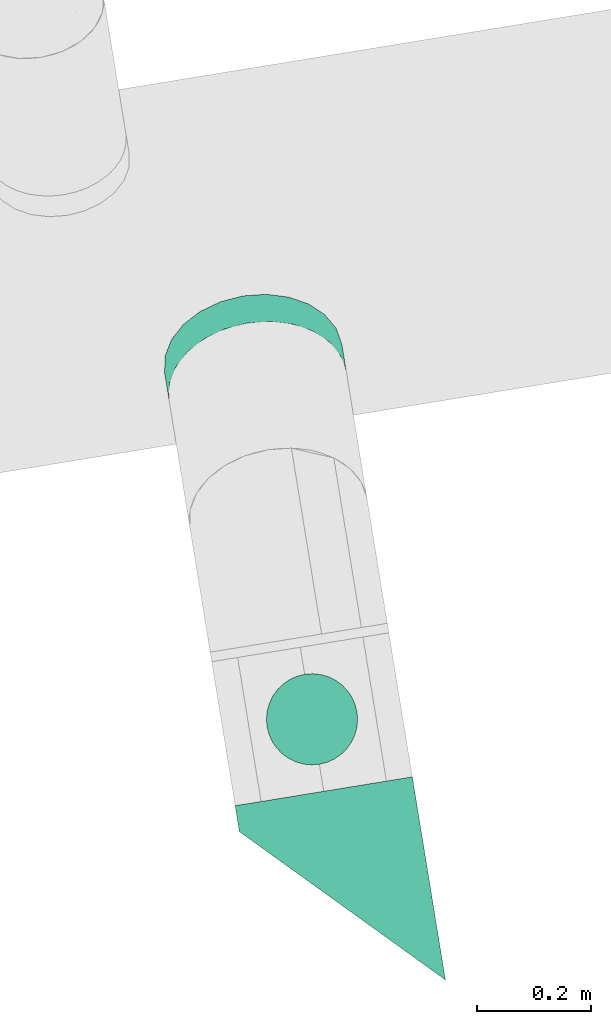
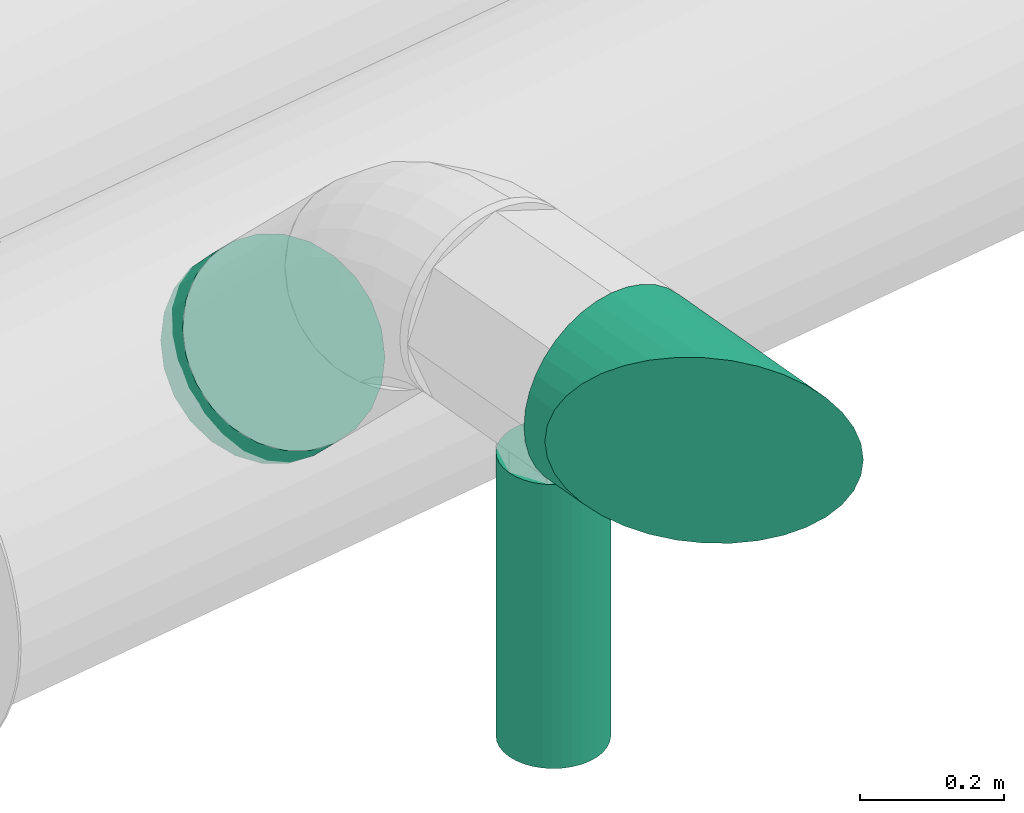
# One storey, part 9 of 15: 2 flow segments, 1 flow fitting.
"""IFC2X3 building model written with IfcOpenShell, lengths in millimetres."""

from ifc_helpers import new_model, entity, si_unit, converted_unit, derived_unit, direction, frame, origin, origin_with_axes, place, context, subcontext, project, spatial, faceted_brep, source, transform, mapped, material, type_object, element, save


model = new_model("IFC2X3")

# Units and contexts
model_context = context("Model", 3, precision=0.01, world=origin(), true_north=direction((6.12323399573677e-17, 1.0)))
plan_context = context("Plan", 3, precision=1e-05, world=origin_with_axes())
body_context = subcontext(model_context, "Body", "Model", "MODEL_VIEW")
ifc_project = project(units=[converted_unit("PLANEANGLEUNIT", "DEGREE", entity("IfcPositiveLengthMeasure", 0.0174532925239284), si_unit("PLANEANGLEUNIT", "RADIAN"), dimensions=[0, 0, 0, 0, 0, 0, 0]), si_unit("AREAUNIT", "SQUARE_METRE"), si_unit("LENGTHUNIT", "METRE", prefix="MILLI"), si_unit("MASSUNIT", "GRAM", prefix="KILO"), si_unit("POWERUNIT", "WATT"), si_unit("PRESSUREUNIT", "PASCAL", prefix="KILO"), si_unit("FORCEUNIT", "NEWTON", prefix="KILO"), si_unit("ELECTRICVOLTAGEUNIT", "VOLT"), si_unit("ELECTRICCURRENTUNIT", "AMPERE"), si_unit("THERMODYNAMICTEMPERATUREUNIT", "DEGREE_CELSIUS"), si_unit("TIMEUNIT", "SECOND"), si_unit("VOLUMEUNIT", "CUBIC_METRE"), derived_unit("LINEARVELOCITYUNIT", [(si_unit("LENGTHUNIT", "METRE"), 1), (si_unit("TIMEUNIT", "SECOND"), -1)]), derived_unit("VOLUMETRICFLOWRATEUNIT", [(si_unit("VOLUMEUNIT", "CUBIC_METRE"), 1), (si_unit("TIMEUNIT", "SECOND"), -1)]), derived_unit("THERMALTRANSMITTANCEUNIT", [(si_unit("POWERUNIT", "WATT"), 1), (si_unit("THERMODYNAMICTEMPERATUREUNIT", "KELVIN"), -1), (si_unit("AREAUNIT", "SQUARE_METRE"), -1)]), derived_unit("SOUNDPRESSUREUNIT", [(si_unit("PRESSUREUNIT", "PASCAL"), 1)])], contexts=[model_context, plan_context])

# Site, building, storey
site_placement = place(None, frame((5.09380697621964e-08, 5.80416781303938e-08, 0.0), z_axis=(0.0, 0.0, 1.0), x_axis=(-0.160806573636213, 0.986985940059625, 0.0)))
site = spatial("IfcSite", under=ifc_project, at=site_placement, Name="Default", CompositionType="ELEMENT")
building_placement = place(site_placement, frame((0.0, 0.0, 0.0), z_axis=(0.0, 0.0, 1.0), x_axis=(1.0, -2.77555756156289e-17, 0.0)))
building = spatial("IfcBuilding", under=site, at=building_placement, Name="Bygning (endres i Project Information)", CompositionType="ELEMENT")
storey_placement = place(building_placement, frame((0.0, 0.0, 51360.0000000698), z_axis=(0.0, 0.0, 1.0), x_axis=(1.0, -2.77555756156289e-17, 0.0)))
storey = spatial("IfcBuildingStorey", under=building, at=storey_placement, Name="H01-Nivå D+0,36", CompositionType="ELEMENT", Elevation=51360.0000000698)

# Flow fitting
ifc_material_1 = material(Name="3601.001 Avtrekk")
duct_fitting_type = type_object("IfcDuctFittingType", Name="magicirc_tapoutlet_001:magicirc_tapoutlet_001", PredefinedType="NOTDEFINED", material=ifc_material_1)
shared_shape = source(origin(), body_context, "Body", "Brep", [
    faceted_brep([(-48.2979978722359, 0.0, -157.500000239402), (-48.2979978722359, -40.7639996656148, -152.133317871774), (-48.2979978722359, -78.7500001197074, -136.399001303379), (-48.2979978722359, -111.369318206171, -111.369318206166), (-48.2979978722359, -136.399001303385, -78.7500001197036), (-48.2979978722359, -152.133317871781, -40.7639996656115), (-48.2979978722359, -157.500000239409, 0.0), (-48.2979978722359, -152.13331787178, 40.7639996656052), (-48.2979978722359, -136.399001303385, 78.750000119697), (-48.2979978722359, -111.369318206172, 111.36931820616), (-48.2979978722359, -78.7500001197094, 136.399001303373), (-48.2979978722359, -40.7639996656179, 152.133317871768), (-48.2979978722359, 0.0, 157.500000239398), (-48.2979978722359, 40.7639996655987, 152.133317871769), (-48.2979978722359, 78.7500001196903, 136.399001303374), (-48.2979978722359, 111.369318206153, 111.369318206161), (-48.2979978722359, 136.399001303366, 78.7500001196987), (-48.2979978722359, 152.133317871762, 40.7639996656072), (-48.2979978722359, 157.500000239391, 0.0), (-48.2979978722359, 152.133317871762, -40.7639996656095), (-48.2979978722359, 136.399001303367, -78.7500001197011), (-48.2979978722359, 111.369318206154, -111.369318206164), (-48.2979978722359, 78.7500001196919, -136.399001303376), (-48.2979978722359, 40.7639996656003, -152.133317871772), (0.0, 0.0, 157.500000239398), (20.0, 0.0, 157.500000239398), (20.0, 40.7639996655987, 152.133317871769), (0.0, 40.7639996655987, 152.133317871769), (20.0, 78.7500001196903, 136.399001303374), (0.0, 78.7500001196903, 136.399001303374), (20.0, 111.369318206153, 111.369318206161), (0.0, 111.369318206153, 111.369318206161), (0.0, 136.399001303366, 78.7500001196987), (20.0, 136.399001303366, 78.7500001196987), (20.0, 152.133317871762, 40.7639996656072), (0.0, 152.133317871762, 40.7639996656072), (20.0, 157.500000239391, 0.0), (0.0, 157.500000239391, 0.0), (20.0, 152.133317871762, -40.7639996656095), (0.0, 152.133317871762, -40.7639996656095), (20.0, 136.399001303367, -78.7500001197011), (0.0, 136.399001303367, -78.7500001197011), (20.0, 111.369318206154, -111.369318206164), (0.0, 111.369318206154, -111.369318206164), (0.0, 40.7639996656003, -152.133317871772), (20.0, 40.7639996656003, -152.133317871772), (20.0, 0.0, -157.500000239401), (0.0, 0.0, -157.500000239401), (0.0, 78.7500001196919, -136.399001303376), (20.0, 78.7500001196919, -136.399001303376), (20.0, -40.7639996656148, -152.133317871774), (0.0, -40.7639996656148, -152.133317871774), (20.0, -78.7500001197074, -136.399001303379), (0.0, -78.7500001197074, -136.399001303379), (20.0, -111.369318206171, -111.369318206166), (0.0, -111.369318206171, -111.369318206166), (0.0, -136.399001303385, -78.7500001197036), (20.0, -136.399001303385, -78.7500001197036), (20.0, -152.133317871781, -40.7639996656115), (0.0, -152.133317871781, -40.7639996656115), (20.0, -157.50000023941, 0.0), (0.0, -157.50000023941, 0.0), (20.0, -152.13331787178, 40.7639996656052), (0.0, -152.13331787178, 40.7639996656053), (20.0, -136.399001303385, 78.750000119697), (0.0, -136.399001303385, 78.750000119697), (20.0, -111.369318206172, 111.36931820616), (0.0, -111.369318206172, 111.36931820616), (0.0, -78.7500001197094, 136.399001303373), (20.0, -78.7500001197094, 136.399001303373), (20.0, -40.7639996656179, 152.133317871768), (0.0, -40.7639996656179, 152.133317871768)], [[[0, 1, 2, 3, 4, 5, 6, 7, 8, 9, 10, 11, 12, 13, 14, 15, 16, 17, 18, 19, 20, 21, 22, 23]], [[12, 24, 25, 26, 27, 13]], [[13, 27, 26, 28, 29, 14]], [[14, 29, 28, 30, 31, 15]], [[16, 32, 33, 34, 35, 17]], [[17, 35, 34, 36, 37, 18]], [[15, 31, 30, 33, 32, 16]], [[18, 37, 36, 38, 39, 19]], [[19, 39, 38, 40, 41, 20]], [[20, 41, 40, 42, 43, 21]], [[44, 45, 46, 47, 0, 23]], [[48, 49, 45, 44, 23, 22]], [[22, 21, 43, 42, 49, 48]], [[0, 47, 46, 50, 51, 1]], [[1, 51, 50, 52, 53, 2]], [[2, 53, 52, 54, 55, 3]], [[4, 56, 57, 58, 59, 5]], [[5, 59, 58, 60, 61, 6]], [[3, 55, 54, 57, 56, 4]], [[6, 61, 60, 62, 63, 7]], [[7, 63, 62, 64, 65, 8]], [[8, 65, 64, 66, 67, 9]], [[10, 68, 69, 70, 71, 11]], [[11, 71, 70, 25, 24, 12]], [[9, 67, 66, 69, 68, 10]], [[45, 49, 42, 40, 38, 36, 34, 33, 30, 28, 26, 25, 70, 69, 66, 64, 62, 60, 58, 57, 54, 52, 50, 46]]]),
    faceted_brep([(20.0, 40.7639996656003, -152.133317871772), (20.0, 78.7500001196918, -136.399001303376), (20.0, 111.369318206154, -111.369318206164), (20.0, 136.399001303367, -78.7500001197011), (20.0, 152.133317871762, -40.7639996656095), (20.0, 157.500000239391, 0.0), (20.0, 152.133317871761, 40.7639996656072), (20.0, 136.399001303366, 78.7500001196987), (20.0, 111.369318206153, 111.369318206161), (20.0, 78.7500001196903, 136.399001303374), (20.0, 40.7639996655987, 152.133317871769), (20.0, 0.0, 157.500000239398), (20.0, -40.763999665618, 152.133317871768), (20.0, -78.7500001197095, 136.399001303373), (20.0, -111.369318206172, 111.36931820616), (20.0, -136.399001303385, 78.750000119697), (20.0, -152.13331787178, 40.7639996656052), (20.0, -157.50000023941, 0.0), (20.0, -152.133317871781, -40.7639996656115), (20.0, -136.399001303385, -78.7500001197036), (20.0, -111.369318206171, -111.369318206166), (20.0, -78.7500001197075, -136.399001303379), (20.0, -40.7639996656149, -152.133317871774), (20.0, 0.0, -157.500000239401), (0.0, 0.0, 157.500000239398), (0.0, 40.7639996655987, 152.133317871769), (-48.2979978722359, 40.7639996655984, 152.133317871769), (-48.297997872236, 0.0, 157.500000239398), (0.0, 78.7500001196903, 136.399001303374), (-48.2979978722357, 78.75000011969, 136.399001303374), (0.0, 111.369318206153, 111.369318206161), (-48.2979978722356, 111.369318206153, 111.369318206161), (0.0, 136.399001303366, 78.7500001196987), (0.0, 152.133317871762, 40.7639996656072), (-48.2979978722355, 152.133317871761, 40.7639996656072), (-48.2979978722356, 136.399001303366, 78.7500001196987), (0.0, 157.500000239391, 0.0), (-48.2979978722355, 157.500000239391, 0.0), (0.0, 152.133317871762, -40.7639996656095), (-48.2979978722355, 152.133317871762, -40.7639996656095), (0.0, 136.399001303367, -78.7500001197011), (-48.2979978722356, 136.399001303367, -78.7500001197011), (0.0, 111.369318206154, -111.369318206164), (-48.2979978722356, 111.369318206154, -111.369318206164), (0.0, 0.0, -157.500000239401), (-48.297997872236, 0.0, -157.500000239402), (-48.2979978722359, 40.7639996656, -152.133317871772), (0.0, 40.7639996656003, -152.133317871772), (-48.2979978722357, 78.7500001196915, -136.399001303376), (0.0, 78.7500001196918, -136.399001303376), (0.0, -40.7639996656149, -152.133317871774), (-48.2979978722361, -40.7639996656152, -152.133317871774), (0.0, -78.7500001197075, -136.399001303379), (-48.2979978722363, -78.7500001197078, -136.399001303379), (0.0, -111.369318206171, -111.369318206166), (-48.2979978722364, -111.369318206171, -111.369318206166), (0.0, -136.399001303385, -78.7500001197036), (0.0, -152.133317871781, -40.7639996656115), (-48.2979978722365, -152.133317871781, -40.7639996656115), (-48.2979978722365, -136.399001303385, -78.7500001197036), (0.0, -157.50000023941, 0.0), (-48.2979978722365, -157.500000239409, 0.0), (0.0, -152.13331787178, 40.7639996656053), (-48.2979978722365, -152.13331787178, 40.7639996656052), (0.0, -136.399001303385, 78.750000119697), (-48.2979978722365, -136.399001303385, 78.750000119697), (0.0, -111.369318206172, 111.36931820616), (-48.2979978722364, -111.369318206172, 111.36931820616), (0.0, -78.7500001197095, 136.399001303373), (0.0, -40.7639996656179, 152.133317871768), (-48.2979978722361, -40.7639996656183, 152.133317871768), (-48.2979978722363, -78.7500001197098, 136.399001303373)], [[[0, 1, 2, 3, 4, 5, 6, 7, 8, 9, 10, 11, 12, 13, 14, 15, 16, 17, 18, 19, 20, 21, 22, 23]], [[24, 11, 10, 25, 26, 27]], [[25, 10, 9, 28, 29, 26]], [[28, 9, 8, 30, 31, 29]], [[32, 7, 6, 33, 34, 35]], [[33, 6, 5, 36, 37, 34]], [[30, 8, 7, 32, 35, 31]], [[36, 5, 4, 38, 39, 37]], [[38, 4, 3, 40, 41, 39]], [[40, 3, 2, 42, 43, 41]], [[0, 23, 44, 45, 46, 47]], [[1, 0, 47, 46, 48, 49]], [[49, 48, 43, 42, 2, 1]], [[44, 23, 22, 50, 51, 45]], [[50, 22, 21, 52, 53, 51]], [[52, 21, 20, 54, 55, 53]], [[56, 19, 18, 57, 58, 59]], [[57, 18, 17, 60, 61, 58]], [[54, 20, 19, 56, 59, 55]], [[60, 17, 16, 62, 63, 61]], [[62, 16, 15, 64, 65, 63]], [[64, 15, 14, 66, 67, 65]], [[68, 13, 12, 69, 70, 71]], [[69, 12, 11, 24, 27, 70]], [[66, 14, 13, 68, 71, 67]], [[45, 51, 53, 55, 59, 58, 61, 63, 65, 67, 71, 70, 27, 26, 29, 31, 35, 34, 37, 39, 41, 43, 48, 46]]]),
    faceted_brep([(-48.2979978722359, 0.0, -157.500000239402), (-48.2979978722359, -40.7639996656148, -152.133317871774), (-48.2979978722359, -78.7500001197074, -136.399001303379), (-48.2979978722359, -111.369318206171, -111.369318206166), (-48.2979978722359, -136.399001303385, -78.7500001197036), (-48.2979978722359, -152.133317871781, -40.7639996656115), (-48.2979978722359, -157.500000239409, 0.0), (-48.2979978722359, -152.13331787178, 40.7639996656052), (-48.2979978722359, -136.399001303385, 78.750000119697), (-48.2979978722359, -111.369318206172, 111.36931820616), (-48.2979978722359, -78.7500001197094, 136.399001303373), (-48.2979978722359, -40.7639996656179, 152.133317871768), (-48.2979978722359, 0.0, 157.500000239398), (-48.2979978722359, 40.7639996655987, 152.133317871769), (-48.2979978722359, 78.7500001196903, 136.399001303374), (-48.2979978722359, 111.369318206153, 111.369318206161), (-48.2979978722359, 136.399001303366, 78.7500001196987), (-48.2979978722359, 152.133317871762, 40.7639996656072), (-48.2979978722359, 157.500000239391, 0.0), (-48.2979978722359, 152.133317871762, -40.7639996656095), (-48.2979978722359, 136.399001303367, -78.7500001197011), (-48.2979978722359, 111.369318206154, -111.369318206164), (-48.2979978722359, 78.7500001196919, -136.399001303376), (-48.2979978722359, 40.7639996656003, -152.133317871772), (0.0, 0.0, 157.500000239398), (20.0, 0.0, 157.500000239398), (20.0, 40.7639996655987, 152.133317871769), (0.0, 40.7639996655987, 152.133317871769), (20.0, 78.7500001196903, 136.399001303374), (0.0, 78.7500001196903, 136.399001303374), (20.0, 111.369318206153, 111.369318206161), (0.0, 111.369318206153, 111.369318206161), (0.0, 136.399001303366, 78.7500001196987), (20.0, 136.399001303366, 78.7500001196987), (20.0, 152.133317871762, 40.7639996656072), (0.0, 152.133317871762, 40.7639996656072), (20.0, 157.500000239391, 0.0), (0.0, 157.500000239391, 0.0), (20.0, 152.133317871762, -40.7639996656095), (0.0, 152.133317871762, -40.7639996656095), (20.0, 136.399001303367, -78.7500001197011), (0.0, 136.399001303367, -78.7500001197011), (20.0, 111.369318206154, -111.369318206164), (0.0, 111.369318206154, -111.369318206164), (0.0, 40.7639996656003, -152.133317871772), (20.0, 40.7639996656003, -152.133317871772), (20.0, 0.0, -157.500000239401), (0.0, 0.0, -157.500000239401), (0.0, 78.7500001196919, -136.399001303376), (20.0, 78.7500001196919, -136.399001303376), (20.0, -40.7639996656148, -152.133317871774), (0.0, -40.7639996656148, -152.133317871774), (20.0, -78.7500001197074, -136.399001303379), (0.0, -78.7500001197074, -136.399001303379), (20.0, -111.369318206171, -111.369318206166), (0.0, -111.369318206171, -111.369318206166), (0.0, -136.399001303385, -78.7500001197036), (20.0, -136.399001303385, -78.7500001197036), (20.0, -152.133317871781, -40.7639996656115), (0.0, -152.133317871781, -40.7639996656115), (20.0, -157.50000023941, 0.0), (0.0, -157.50000023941, 0.0), (20.0, -152.13331787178, 40.7639996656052), (0.0, -152.13331787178, 40.7639996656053), (20.0, -136.399001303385, 78.750000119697), (0.0, -136.399001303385, 78.750000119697), (20.0, -111.369318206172, 111.36931820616), (0.0, -111.369318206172, 111.36931820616), (0.0, -78.7500001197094, 136.399001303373), (20.0, -78.7500001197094, 136.399001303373), (20.0, -40.7639996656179, 152.133317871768), (0.0, -40.7639996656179, 152.133317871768)], [[[0, 1, 2, 3, 4, 5, 6, 7, 8, 9, 10, 11, 12, 13, 14, 15, 16, 17, 18, 19, 20, 21, 22, 23]], [[12, 24, 25, 26, 27, 13]], [[13, 27, 26, 28, 29, 14]], [[14, 29, 28, 30, 31, 15]], [[16, 32, 33, 34, 35, 17]], [[17, 35, 34, 36, 37, 18]], [[15, 31, 30, 33, 32, 16]], [[18, 37, 36, 38, 39, 19]], [[19, 39, 38, 40, 41, 20]], [[20, 41, 40, 42, 43, 21]], [[44, 45, 46, 47, 0, 23]], [[48, 49, 45, 44, 23, 22]], [[22, 21, 43, 42, 49, 48]], [[0, 47, 46, 50, 51, 1]], [[1, 51, 50, 52, 53, 2]], [[2, 53, 52, 54, 55, 3]], [[4, 56, 57, 58, 59, 5]], [[5, 59, 58, 60, 61, 6]], [[3, 55, 54, 57, 56, 4]], [[6, 61, 60, 62, 63, 7]], [[7, 63, 62, 64, 65, 8]], [[8, 65, 64, 66, 67, 9]], [[10, 68, 69, 70, 71, 11]], [[11, 71, 70, 25, 24, 12]], [[9, 67, 66, 69, 68, 10]], [[45, 49, 42, 40, 38, 36, 34, 33, 30, 28, 26, 25, 70, 69, 66, 64, 62, 60, 58, 57, 54, 52, 50, 46]]]),
])
flow_fitting_placement = place(storey_placement, frame((994108.433292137, -340406.158897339, 3472.73863679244), z_axis=(-0.70710678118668, 1.96261557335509e-17, -0.707106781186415), x_axis=(-0.707106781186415, 0.0, 0.70710678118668)))
element("IfcFlowFitting", 1, at=flow_fitting_placement, inside=storey, type_object=duct_fitting_type, material=ifc_material_1, Name="magicirc_tapoutlet_001:magicirc_tapoutlet_001", ObjectType="magicirc_tapoutlet_001:magicirc_tapoutlet_001", context=body_context, shape_type="MappedRepresentation", body=[
    mapped(shared_shape, transform((0.0, 0.0, 0.0), scale=1.0)),
])

# Flow segments
ifc_material_2 = material(Name="3601.001 Tilluft")
duct_segment_type = type_object("IfcDuctSegmentType", Name="Round Duct:Sirkulær kanal", PredefinedType="NOTDEFINED", material=ifc_material_2)
flow_segment_1_placement = place(storey_placement, frame((0.0, 0.0, 0.0), z_axis=(0.0, 0.0, 1.0), x_axis=(1.0, -2.77555756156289e-17, 0.0)))
element("IfcFlowSegment", 2, at=flow_segment_1_placement, inside=storey, type_object=duct_segment_type, Name="Round Duct:Sirkulær kanal", ObjectType="Round Duct:Sirkulær kanal", context=body_context, shape_type="Brep", body=[
    faceted_brep([(993012.477009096, -340563.658897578, 3804.29489743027), (993014.869788, -340561.266118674, 3831.64448545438), (993373.492374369, -340561.266118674, 3831.64448545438), (993373.492374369, -340563.658897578, 3804.29489743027), (993014.869788, -340561.266118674, 3776.94530940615), (993373.492374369, -340561.266118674, 3776.94530940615), (993021.975421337, -340554.160485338, 3750.42672477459), (993373.492374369, -340554.160485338, 3750.42672477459), (993033.578008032, -340542.557898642, 3725.54489731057), (993373.492374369, -340542.557898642, 3725.54489731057), (993049.325009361, -340526.810897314, 3703.05584875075), (993373.492374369, -340526.810897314, 3703.05584875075), (993068.737960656, -340507.397946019, 3683.64289745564), (993373.492374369, -340507.397946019, 3683.64289745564), (993091.227009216, -340484.908897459, 3667.89589612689), (993373.492374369, -340484.908897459, 3667.89589612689), (993116.10883668, -340460.027069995, 3656.29330943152), (993373.492374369, -340460.027069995, 3656.29330943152), (993142.627421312, -340433.508485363, 3649.18767609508), (993373.492374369, -340433.508485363, 3649.18767609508), (993169.977009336, -340406.158897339, 3646.79489719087), (993373.492374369, -340406.158897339, 3646.79489719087), (993197.32659736, -340378.809309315, 3649.18767609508), (993373.492374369, -340378.809309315, 3649.18767609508), (993223.845181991, -340352.290724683, 3656.29330943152), (993373.492374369, -340352.290724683, 3656.29330943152), (993248.727009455, -340327.408897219, 3667.89589612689), (993373.492374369, -340327.408897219, 3667.89589612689), (993271.216058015, -340304.91984866, 3683.64289745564), (993373.492374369, -340304.91984866, 3683.64289745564), (993290.62900931, -340285.506897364, 3703.05584875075), (993373.492374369, -340285.506897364, 3703.05584875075), (993306.376010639, -340269.759896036, 3725.54489731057), (993373.492374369, -340269.759896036, 3725.54489731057), (993317.978597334, -340258.15730934, 3750.42672477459), (993373.492374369, -340258.15730934, 3750.42672477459), (993325.084230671, -340251.051676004, 3776.94530940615), (993373.492374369, -340251.051676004, 3776.94530940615), (993327.477009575, -340248.6588971, 3804.29489743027), (993373.492374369, -340248.6588971, 3804.29489743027), (993325.084230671, -340251.051676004, 3831.64448545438), (993373.492374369, -340251.051676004, 3831.64448545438), (993317.978597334, -340258.15730934, 3858.16307008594), (993373.492374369, -340258.15730934, 3858.16307008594), (993306.376010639, -340269.759896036, 3883.04489754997), (993373.492374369, -340269.759896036, 3883.04489754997), (993290.62900931, -340285.506897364, 3905.53394610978), (993373.492374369, -340285.506897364, 3905.53394610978), (993271.216058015, -340304.91984866, 3924.9468974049), (993373.492374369, -340304.91984866, 3924.9468974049), (993248.727009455, -340327.408897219, 3940.69389873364), (993373.492374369, -340327.408897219, 3940.69389873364), (993223.845181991, -340352.290724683, 3952.29648542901), (993373.492374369, -340352.290724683, 3952.29648542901), (993197.32659736, -340378.809309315, 3959.40211876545), (993373.492374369, -340378.809309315, 3959.40211876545), (993169.977009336, -340406.158897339, 3961.79489766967), (993373.492374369, -340406.158897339, 3961.79489766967), (993142.627421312, -340433.508485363, 3959.40211876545), (993373.492374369, -340433.508485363, 3959.40211876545), (993116.10883668, -340460.027069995, 3952.29648542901), (993373.492374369, -340460.027069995, 3952.29648542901), (993091.227009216, -340484.908897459, 3940.69389873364), (993373.492374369, -340484.908897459, 3940.69389873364), (993068.737960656, -340507.397946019, 3924.9468974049), (993373.492374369, -340507.397946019, 3924.9468974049), (993049.325009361, -340526.810897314, 3905.53394610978), (993373.492374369, -340526.810897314, 3905.53394610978), (993033.578008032, -340542.557898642, 3883.04489754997), (993373.492374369, -340542.557898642, 3883.04489754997), (993021.975421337, -340554.160485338, 3858.16307008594), (993373.492374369, -340554.160485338, 3858.16307008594)], [[[0, 1, 2, 3]], [[4, 0, 3, 5]], [[6, 4, 5, 7]], [[8, 6, 7, 9]], [[10, 8, 9, 11]], [[12, 10, 11, 13]], [[14, 12, 13, 15]], [[16, 14, 15, 17]], [[18, 16, 17, 19]], [[20, 18, 19, 21]], [[22, 20, 21, 23]], [[24, 22, 23, 25]], [[26, 24, 25, 27]], [[28, 26, 27, 29]], [[30, 28, 29, 31]], [[32, 30, 31, 33]], [[34, 32, 33, 35]], [[36, 34, 35, 37]], [[38, 36, 37, 39]], [[40, 38, 39, 41]], [[42, 40, 41, 43]], [[44, 42, 43, 45]], [[46, 44, 45, 47]], [[48, 46, 47, 49]], [[50, 48, 49, 51]], [[52, 50, 51, 53]], [[54, 52, 53, 55]], [[56, 54, 55, 57]], [[58, 56, 57, 59]], [[60, 58, 59, 61]], [[62, 60, 61, 63]], [[64, 62, 63, 65]], [[66, 64, 65, 67]], [[68, 66, 67, 69]], [[70, 68, 69, 71]], [[1, 70, 71, 2]], [[3, 2, 71, 69, 67, 65, 63, 61, 59, 57, 55, 53, 51, 49, 47, 45, 43, 41, 39, 37, 35, 33, 31, 29, 27, 25, 23, 21, 19, 17, 15, 13, 11, 9, 7, 5]], [[4, 6, 8, 10, 12, 14, 16, 18, 20, 22, 24, 26, 28, 30, 32, 34, 36, 38, 40, 42, 44, 46, 48, 50, 52, 54, 56, 58, 60, 62, 64, 66, 68, 70, 1, 0]]], orient=[[False], [False], [False], [False], [False], [False], [False], [False], [False], [False], [False], [False], [False], [False], [False], [False], [False], [False], [False], [False], [False], [False], [False], [False], [False], [False], [False], [False], [False], [False], [False], [False], [False], [False], [False], [False], [False], [False]]),
])
flow_segment_2_placement = place(storey_placement, frame((0.0, 0.0, 0.0), z_axis=(0.0, 0.0, 1.0), x_axis=(1.0, -2.77555756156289e-17, 0.0)))
element("IfcFlowSegment", 3, at=flow_segment_2_placement, inside=storey, type_object=duct_segment_type, Name="Round Duct:Sirkulær kanal", ObjectType="Round Duct:Sirkulær kanal", context=body_context, shape_type="Brep", body=[
    faceted_brep([(993501.492374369, -340486.158897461, 3139.99999993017), (993487.600520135, -340484.9435177, 3139.99999993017), (993487.600520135, -340484.9435177, 3622.29489743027), (993501.492374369, -340486.158897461, 3622.29489743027), (993515.384228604, -340484.9435177, 3139.99999993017), (993515.384228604, -340484.9435177, 3622.29489743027), (993528.853985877, -340481.334307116, 3139.99999993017), (993528.853985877, -340481.334307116, 3622.29489743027), (993541.49237443, -340475.440929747, 3139.99999993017), (993541.49237443, -340475.440929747, 3622.29489743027), (993552.915383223, -340467.442452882, 3139.99999993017), (993552.915383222, -340467.442452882, 3622.29489743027), (993562.775929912, -340457.581906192, 3139.99999993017), (993562.775929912, -340457.581906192, 3622.29489743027), (993570.774406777, -340446.1588974, 3139.99999993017), (993570.774406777, -340446.1588974, 3622.29489743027), (993576.667784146, -340433.520508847, 3139.99999993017), (993576.667784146, -340433.520508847, 3622.29489743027), (993580.27699473, -340420.050751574, 3139.99999993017), (993580.27699473, -340420.050751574, 3622.29489743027), (993581.492374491, -340406.158897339, 3139.99999993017), (993581.492374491, -340406.158897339, 3622.29489743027), (993580.27699473, -340392.267043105, 3139.99999993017), (993580.27699473, -340392.267043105, 3622.29489743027), (993576.667784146, -340378.797285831, 3139.99999993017), (993576.667784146, -340378.797285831, 3622.29489743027), (993570.774406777, -340366.158897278, 3139.99999993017), (993570.774406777, -340366.158897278, 3622.29489743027), (993562.775929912, -340354.735888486, 3139.99999993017), (993562.775929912, -340354.735888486, 3622.29489743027), (993552.915383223, -340344.875341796, 3139.99999993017), (993552.915383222, -340344.875341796, 3622.29489743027), (993541.49237443, -340336.876864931, 3139.99999993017), (993541.49237443, -340336.876864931, 3622.29489743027), (993528.853985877, -340330.983487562, 3139.99999993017), (993528.853985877, -340330.983487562, 3622.29489743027), (993515.384228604, -340327.374276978, 3139.99999993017), (993515.384228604, -340327.374276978, 3622.29489743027), (993501.492374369, -340326.158897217, 3139.99999993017), (993501.492374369, -340326.158897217, 3622.29489743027), (993487.600520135, -340327.374276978, 3139.99999993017), (993487.600520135, -340327.374276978, 3622.29489743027), (993474.130762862, -340330.983487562, 3139.99999993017), (993474.130762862, -340330.983487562, 3622.29489743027), (993461.492374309, -340336.876864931, 3139.99999993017), (993461.492374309, -340336.876864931, 3622.29489743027), (993450.069365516, -340344.875341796, 3139.99999993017), (993450.069365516, -340344.875341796, 3622.29489743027), (993440.208818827, -340354.735888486, 3139.99999993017), (993440.208818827, -340354.735888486, 3622.29489743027), (993432.210341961, -340366.158897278, 3139.99999993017), (993432.210341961, -340366.158897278, 3622.29489743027), (993426.316964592, -340378.797285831, 3139.99999993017), (993426.316964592, -340378.797285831, 3622.29489743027), (993422.707754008, -340392.267043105, 3139.99999993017), (993422.707754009, -340392.267043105, 3622.29489743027), (993421.492374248, -340406.158897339, 3139.99999993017), (993421.492374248, -340406.158897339, 3622.29489743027), (993422.707754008, -340420.050751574, 3139.99999993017), (993422.707754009, -340420.050751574, 3622.29489743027), (993426.316964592, -340433.520508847, 3139.99999993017), (993426.316964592, -340433.520508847, 3622.29489743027), (993432.210341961, -340446.1588974, 3139.99999993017), (993432.210341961, -340446.1588974, 3622.29489743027), (993440.208818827, -340457.581906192, 3139.99999993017), (993440.208818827, -340457.581906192, 3622.29489743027), (993450.069365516, -340467.442452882, 3139.99999993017), (993450.069365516, -340467.442452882, 3622.29489743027), (993461.492374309, -340475.440929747, 3139.99999993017), (993461.492374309, -340475.440929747, 3622.29489743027), (993474.130762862, -340481.334307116, 3139.99999993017), (993474.130762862, -340481.334307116, 3622.29489743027)], [[[0, 1, 2, 3]], [[4, 0, 3, 5]], [[6, 4, 5, 7]], [[8, 6, 7, 9]], [[10, 8, 9, 11]], [[12, 10, 11, 13]], [[14, 12, 13, 15]], [[16, 14, 15, 17]], [[18, 16, 17, 19]], [[20, 18, 19, 21]], [[22, 20, 21, 23]], [[24, 22, 23, 25]], [[26, 24, 25, 27]], [[28, 26, 27, 29]], [[30, 28, 29, 31]], [[32, 30, 31, 33]], [[34, 32, 33, 35]], [[36, 34, 35, 37]], [[38, 36, 37, 39]], [[40, 38, 39, 41]], [[42, 40, 41, 43]], [[44, 42, 43, 45]], [[46, 44, 45, 47]], [[48, 46, 47, 49]], [[50, 48, 49, 51]], [[52, 50, 51, 53]], [[54, 52, 53, 55]], [[56, 54, 55, 57]], [[58, 56, 57, 59]], [[60, 58, 59, 61]], [[62, 60, 61, 63]], [[64, 62, 63, 65]], [[66, 64, 65, 67]], [[68, 66, 67, 69]], [[70, 68, 69, 71]], [[1, 70, 71, 2]], [[3, 2, 71, 69, 67, 65, 63, 61, 59, 57, 55, 53, 51, 49, 47, 45, 43, 41, 39, 37, 35, 33, 31, 29, 27, 25, 23, 21, 19, 17, 15, 13, 11, 9, 7, 5]], [[4, 6, 8, 10, 12, 14, 16, 18, 20, 22, 24, 26, 28, 30, 32, 34, 36, 38, 40, 42, 44, 46, 48, 50, 52, 54, 56, 58, 60, 62, 64, 66, 68, 70, 1, 0]]], orient=[[False], [False], [False], [False], [False], [False], [False], [False], [False], [False], [False], [False], [False], [False], [False], [False], [False], [False], [False], [False], [False], [False], [False], [False], [False], [False], [False], [False], [False], [False], [False], [False], [False], [False], [False], [False], [False], [False]]),
])

save(model, "model.ifc")
